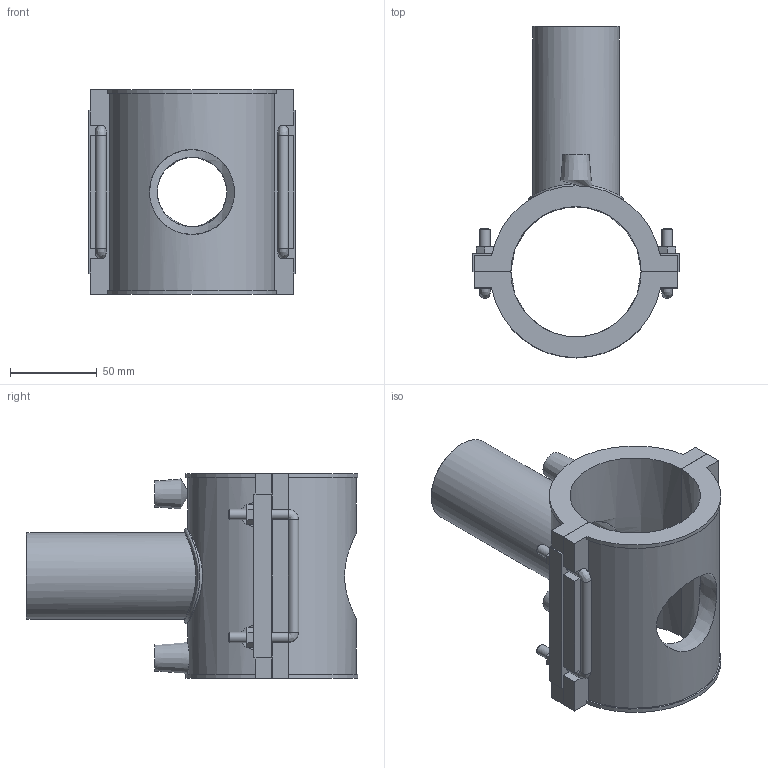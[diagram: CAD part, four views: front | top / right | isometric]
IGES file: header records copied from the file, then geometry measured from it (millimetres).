
Global section: file name: 495804075050.ipt; native system: Autodesk Inventor 2015; preprocessor: unknown; author: KIM; date: 20180426.120827; units: millimetre
Bounding box: 119 x 190.97 x 118 mm (x, y, z)
Volume: 445073.5 mm3; surface area: 118353 mm2
Topology: 2 solids, 2 shells, 133 faces, 340 edges, 214 vertices
Faces by surface type: plane 85, cylinder 22, revolution 10, bspline 9, cone 7
Full cylindrical faces by diameter (mm): 4 x2, 6 x10, 50 x1, 55 x1
